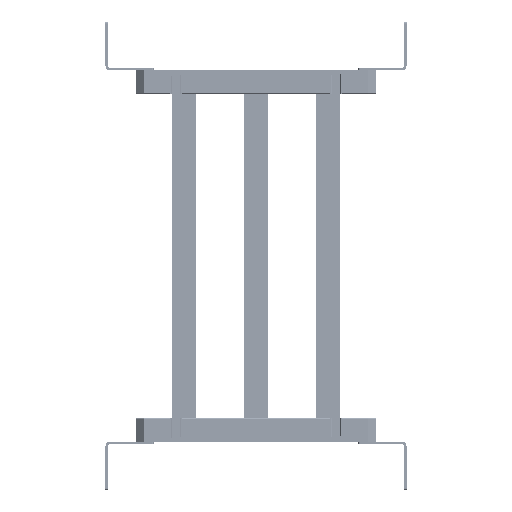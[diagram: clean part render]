
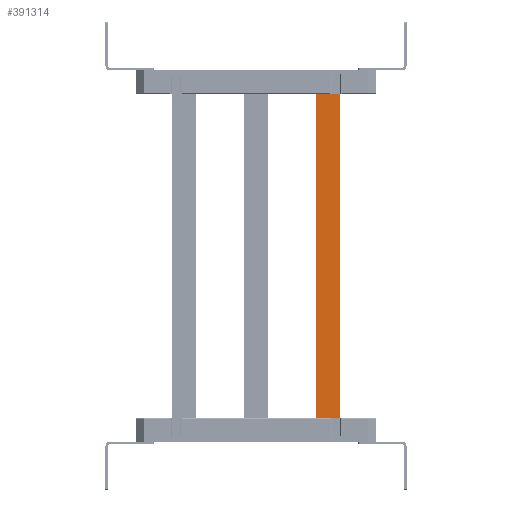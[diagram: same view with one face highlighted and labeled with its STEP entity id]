
A CAD part, left-side view. The second image highlights one B-rep face of the part: STEP entity #391314.
In plain terms, the highlighted planar face has unit normal (-1, 0, 0).
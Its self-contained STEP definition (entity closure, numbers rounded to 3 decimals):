
#8193 = VERTEX_POINT ( 'NONE', #234333 ) ;
#20009 = DIRECTION ( 'NONE',  ( -1., 0., 0. ) ) ;
#50015 = PLANE ( 'NONE',  #354795 ) ;
#56388 = EDGE_CURVE ( 'NONE', #8193, #61748, #91162, .T. ) ;
#58073 = VERTEX_POINT ( 'NONE', #157827 ) ;
#61748 = VERTEX_POINT ( 'NONE', #311481 ) ;
#66205 = VERTEX_POINT ( 'NONE', #111217 ) ;
#75980 = DIRECTION ( 'NONE',  ( 0., 0., 1. ) ) ;
#78228 = ORIENTED_EDGE ( 'NONE', *, *, #366463, .T. ) ;
#80422 = ORIENTED_EDGE ( 'NONE', *, *, #56388, .T. ) ;
#85911 = VECTOR ( 'NONE', #75980, 1000. ) ;
#91162 = LINE ( 'NONE', #243580, #327031 ) ;
#110723 = ORIENTED_EDGE ( 'NONE', *, *, #171914, .T. ) ;
#111217 = CARTESIAN_POINT ( 'NONE',  ( -145.158, -89.733, 743. ) ) ;
#114248 = DIRECTION ( 'NONE',  ( 0., 1., 0. ) ) ;
#114944 = LINE ( 'NONE', #353970, #374826 ) ;
#130614 = VECTOR ( 'NONE', #114248, 1000. ) ;
#138528 = CARTESIAN_POINT ( 'NONE',  ( -145.158, -59.733, 743. ) ) ;
#157827 = CARTESIAN_POINT ( 'NONE',  ( -145.158, -89.733, 290. ) ) ;
#166343 = CARTESIAN_POINT ( 'NONE',  ( -145.158, -89.733, 743. ) ) ;
#171914 = EDGE_CURVE ( 'NONE', #58073, #66205, #202461, .T. ) ;
#179652 = ORIENTED_EDGE ( 'NONE', *, *, #330127, .T. ) ;
#198749 = FACE_OUTER_BOUND ( 'NONE', #289800, .T. ) ;
#202461 = LINE ( 'NONE', #166343, #85911 ) ;
#206163 = DIRECTION ( 'NONE',  ( 0., 0., -1. ) ) ;
#234333 = CARTESIAN_POINT ( 'NONE',  ( -145.158, -59.733, 743. ) ) ;
#243580 = CARTESIAN_POINT ( 'NONE',  ( -145.158, -59.733, 743. ) ) ;
#258849 = DIRECTION ( 'NONE',  ( 0., 0., 1. ) ) ;
#267389 = DIRECTION ( 'NONE',  ( 0., -1., 0. ) ) ;
#289800 = EDGE_LOOP ( 'NONE', ( #179652, #110723, #78228, #80422 ) ) ;
#311481 = CARTESIAN_POINT ( 'NONE',  ( -145.158, -59.733, 290. ) ) ;
#327031 = VECTOR ( 'NONE', #206163, 1000. ) ;
#330127 = EDGE_CURVE ( 'NONE', #61748, #58073, #114944, .T. ) ;
#353970 = CARTESIAN_POINT ( 'NONE',  ( -145.158, -59.733, 290. ) ) ;
#354795 = AXIS2_PLACEMENT_3D ( 'NONE', #138528, #20009, #258849 ) ;
#355226 = LINE ( 'NONE', #359187, #130614 ) ;
#359187 = CARTESIAN_POINT ( 'NONE',  ( -145.158, -59.733, 743. ) ) ;
#366463 = EDGE_CURVE ( 'NONE', #66205, #8193, #355226, .T. ) ;
#374826 = VECTOR ( 'NONE', #267389, 1000. ) ;
#391314 = ADVANCED_FACE ( 'NONE', ( #198749 ), #50015, .T. ) ;
